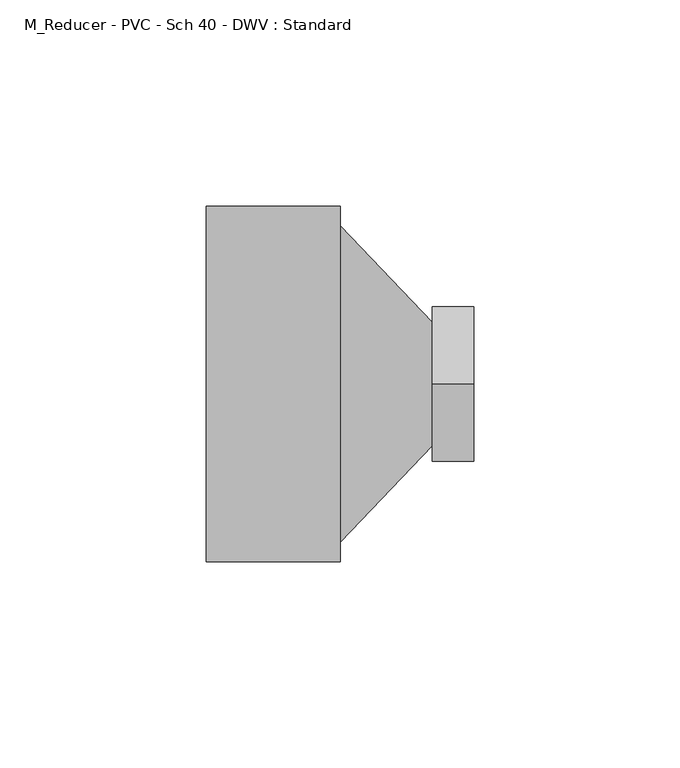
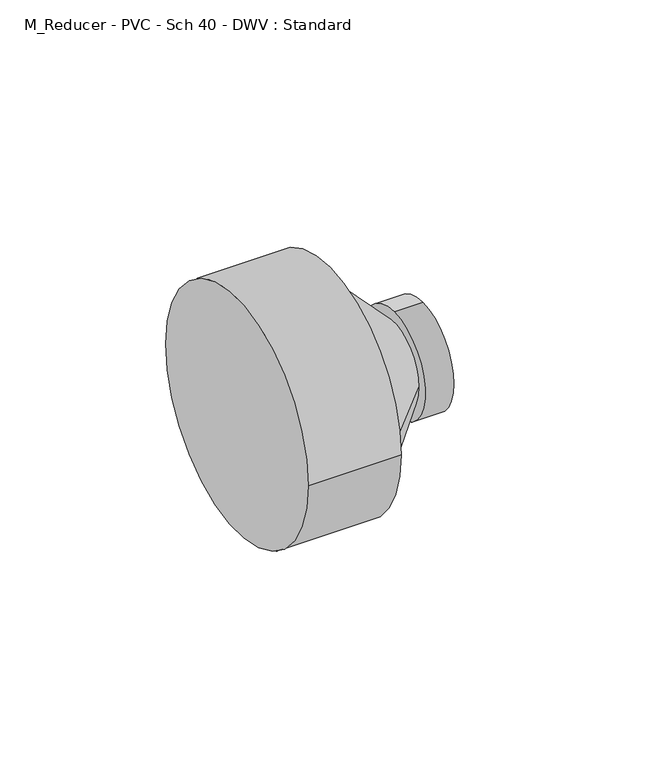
"""IFC4 building model written with IfcOpenShell, lengths in millimetres: pipe fitting geometry, M_Reducer - PVC - Sch 40 - DWV : Standard."""

from ifc_helpers import new_model, si_unit, frame, origin, place, context, project, spatial, polyline, circle_curve, source, transform, mapped, element, save
from ifc_brep_helpers import plane_surface, cylinder_surface, revolved_surface, advanced_brep


def m_reducer_pvc_sch_40_dwv_standard_95f1beeb(model_context):
    return source(origin(), model_context, "Body", "AdvancedBrep", [
        advanced_brep(
        [(0.0, -43.0871094, 0.0), (0.0, 43.0871094, 0.0), (32.5, -43.0871094, 0.0), (32.5, 43.0871094, 0.0), (32.5, 38.3640625, 0.0), (32.5, -38.3640625, 0.0), (54.8460938, 14.9640625, 0.0), (54.8460938, -14.9640625, 0.0), (54.8460938, 0.0, 18.7871094), (54.8460938, 0.0, -18.7871094), (64.8460938, 0.0, 18.7871094), (64.8460938, 0.0, -18.7871094)],
        [
            (0, 1, circle_curve(frame((0.0, 0.0, 0.0), z_axis=(-1.0, 0.0, 0.0), x_axis=(0.0, 1.0, 0.0)), 43.0871094)),
            (1, 0, circle_curve(frame((0.0, 0.0, 0.0), z_axis=(-1.0, 0.0, 0.0), x_axis=(0.0, 1.0, 0.0)), 43.0871094)),
            (2, 3, circle_curve(frame((32.5, 0.0, 0.0), z_axis=(1.0, 0.0, 0.0), x_axis=(0.0, 1.0, 0.0)), 43.0871094)),
            (3, 2, circle_curve(frame((32.5, 0.0, 0.0), z_axis=(1.0, 0.0, 0.0), x_axis=(0.0, 1.0, 0.0)), 43.0871094)),
            (4, 5, circle_curve(frame((32.5, 0.0, 0.0), z_axis=(-1.0, 0.0, 0.0), x_axis=(0.0, -1.0, 0.0)), 38.3640625)),
            (5, 4, circle_curve(frame((32.5, 0.0, 0.0), z_axis=(-1.0, 0.0, 0.0), x_axis=(0.0, 1.0, 0.0)), 38.3640625)),
            (0, 2),
            (3, 1),
            (4, 6),
            (6, 7, circle_curve(frame((54.8460938, 0.0, 0.0), z_axis=(-1.0, 0.0, 0.0), x_axis=(0.0, -1.0, 0.0)), 14.9640625)),
            (7, 5),
            (7, 6, circle_curve(frame((54.8460938, 0.0, 0.0), z_axis=(-1.0, 0.0, 0.0), x_axis=(0.0, 1.0, 0.0)), 14.9640625)),
            (8, 9, circle_curve(frame((54.8460938, 0.0, 0.0), z_axis=(-1.0, 0.0, 0.0), x_axis=(0.0, 0.0, -1.0)), 18.7871094)),
            (9, 8, circle_curve(frame((54.8460938, 0.0, 0.0), z_axis=(-1.0, 0.0, 0.0), x_axis=(0.0, 0.0, -1.0)), 18.7871094)),
            (10, 11, circle_curve(frame((64.8460938, 0.0, 0.0), z_axis=(1.0, 0.0, 0.0), x_axis=(0.0, 0.0, -1.0)), 18.7871094)),
            (11, 10, circle_curve(frame((64.8460938, 0.0, 0.0), z_axis=(1.0, 0.0, 0.0), x_axis=(0.0, 0.0, -1.0)), 18.7871094)),
            (8, 10),
            (11, 9),
        ],
        [
            plane_surface(frame((0.0, 0.0, 0.0), z_axis=(-1.0, 0.0, 0.0), x_axis=(0.0, 0.0, 1.0))),
            plane_surface(frame((32.5, 0.0, 0.0), z_axis=(1.0, 0.0, 0.0), x_axis=(0.0, 0.0, 1.0))),
            cylinder_surface(frame((0.0, 0.0, 0.0), z_axis=(-1.0, 0.0, 0.0), x_axis=(0.0, 1.0, 0.0)), 43.0871094),
            revolved_surface(polyline([(54.8460938, 14.964062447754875, 0.0), (32.5, 38.3640625, 0.0)]), (69.1361939, 0.0, 0.0), (-1.0, 0.0, 0.0)),
            plane_surface(frame((54.8460938, 0.0, 0.0), z_axis=(-1.0, 0.0, 0.0), x_axis=(0.0, 1.0, 0.0))),
            plane_surface(frame((64.8460938, 0.0, 0.0), z_axis=(1.0, 0.0, 0.0), x_axis=(0.0, 1.0, 0.0))),
            cylinder_surface(frame((54.8460938, 0.0, 0.0), z_axis=(-1.0, 0.0, 0.0), x_axis=(0.0, 0.0, -1.0)), 18.7871094),
        ],
        [
            (0, [[1, 2]]),
            (1, [[3, 4], [5, 6]]),
            (2, [[-1, 7, -4, 8]]),
            (2, [[-2, -8, -3, -7]]),
            (3, [[9, 10, 11, -5]]),
            (3, [[-9, -6, -11, 12]]),
            (4, [[13, 14], [-10, -12]]),
            (5, [[15, 16]]),
            (6, [[-13, 17, -16, 18]]),
            (6, [[-14, -18, -15, -17]]),
        ],
    ),
    ])


if __name__ == "__main__":
    model = new_model("IFC4")
    model_context = context("Model", 3, world=origin())
    ifc_project = project(units=[si_unit("LENGTHUNIT", "METRE", prefix="MILLI")], contexts=[model_context])
    site = spatial("IfcSite", under=ifc_project)
    building = spatial("IfcBuilding", under=site)
    placement = place(None, origin())
    m_reducer_pvc_sch_40_dwv_standard_shape = m_reducer_pvc_sch_40_dwv_standard_95f1beeb(model_context)
    element("IfcPipeFitting", 1, ObjectType="M_Reducer - PVC - Sch 40 - DWV : Standard", at=placement, inside=building, context=model_context, shape_type="MappedRepresentation", body=[
        mapped(m_reducer_pvc_sch_40_dwv_standard_shape, transform((0.0, 0.0, 0.0), x_axis=(1.0, 0.0, 0.0), y_axis=(0.0, 1.0, 0.0), z_axis=(0.0, 0.0, 1.0))),
    ])
    save(model, "model.ifc")
